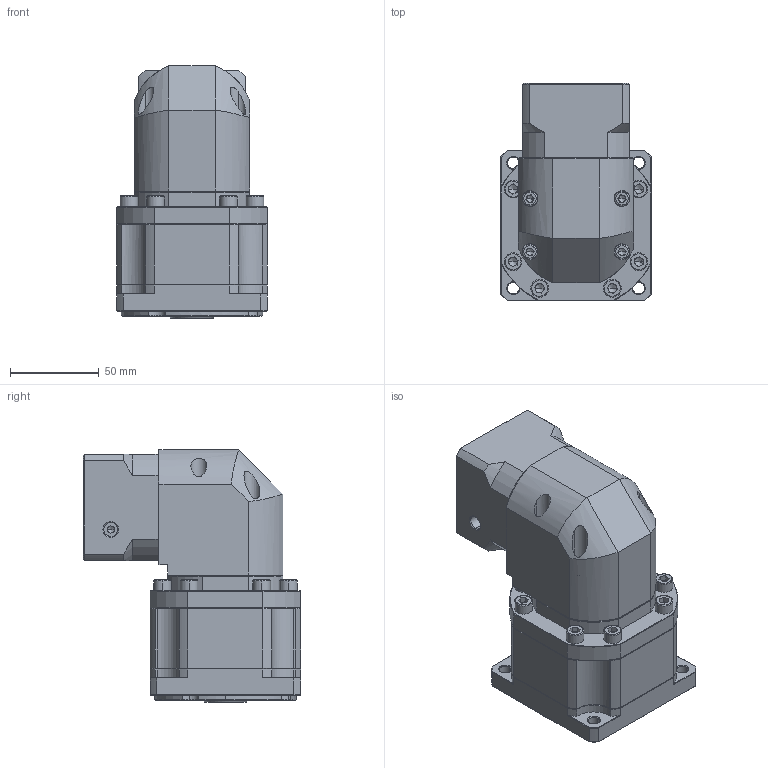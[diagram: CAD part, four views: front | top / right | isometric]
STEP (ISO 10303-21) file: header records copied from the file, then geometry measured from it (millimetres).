
FILE_DESCRIPTION (( 'STEP AP214' ), '1' );
FILE_NAME ('ZBR090-K15-L2-P2-11-50-70-M5.step', '2023-08-19T04:00:56', ( '' ), ( '' ), 'SwSTEP 2.0', 'SolidWorks 2016', '' );
FILE_SCHEMA (( 'AUTOMOTIVE_DESIGN' ));
Length unit declared in the file: millimetre
Products named in the file (1): ZBR090-K15-L2-P2-11-50-70-M5
Bounding box: 85 x 122.7 x 142.5 mm (x, y, z)
Volume: 782418.5 mm3; surface area: 98141.8 mm2
Topology: 5 solids, 5 shells, 2388 faces, 6361 edges, 4074 vertices
Faces by surface type: plane 1171, cylinder 418, bspline 416, cone 363, torus 20
Entity records: 123576 total; most frequent: CARTESIAN_POINT 40964, ORIENTED_EDGE 12634, DIRECTION 10226, EDGE_CURVE 6317, VERTEX_POINT 4074, LINE 3990, VECTOR 3990, AXIS2_PLACEMENT_3D 3118
